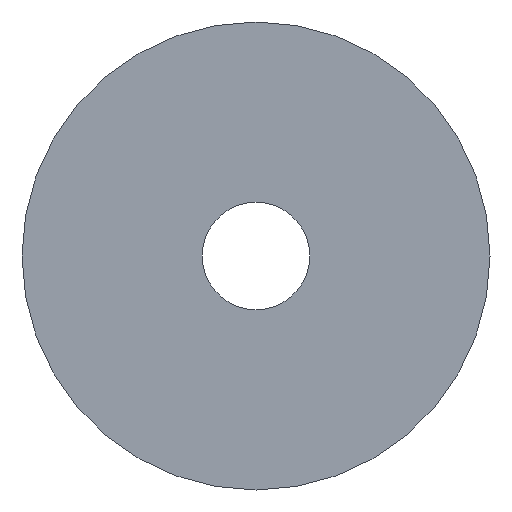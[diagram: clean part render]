
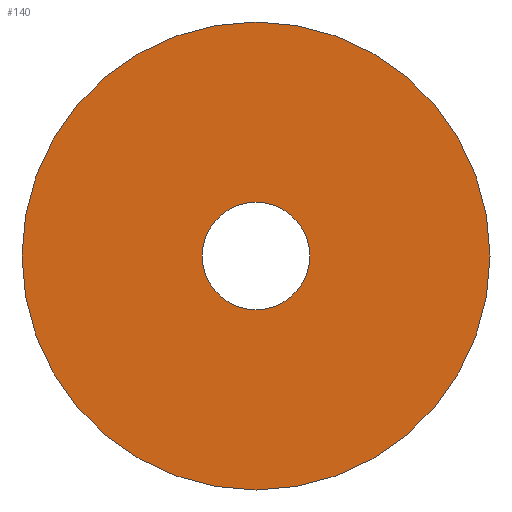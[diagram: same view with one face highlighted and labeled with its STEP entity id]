
A CAD part, left-side view. The second image highlights one B-rep face of the part: STEP entity #140.
In plain terms, the highlighted planar face has unit normal (-1, 0, 0).
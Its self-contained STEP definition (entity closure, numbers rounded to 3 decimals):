
#31 = CYLINDRICAL_SURFACE('',#32,37.);
#32 = AXIS2_PLACEMENT_3D('',#33,#34,#35);
#33 = CARTESIAN_POINT('',(862.,50.,1100.));
#34 = DIRECTION('',(1.,0.,0.));
#35 = DIRECTION('',(-0.,0.,1.));
#56 = VERTEX_POINT('',#57);
#57 = CARTESIAN_POINT('',(862.,50.,1137.));
#78 = EDGE_CURVE('',#56,#56,#79,.T.);
#79 = SURFACE_CURVE('',#80,(#85,#92),.PCURVE_S1.);
#80 = CIRCLE('',#81,37.);
#81 = AXIS2_PLACEMENT_3D('',#82,#83,#84);
#82 = CARTESIAN_POINT('',(862.,50.,1100.));
#83 = DIRECTION('',(1.,0.,0.));
#84 = DIRECTION('',(-0.,0.,1.));
#85 = PCURVE('',#31,#86);
#86 = DEFINITIONAL_REPRESENTATION('',(#87),#91);
#87 = LINE('',#88,#89);
#88 = CARTESIAN_POINT('',(0.,0.));
#89 = VECTOR('',#90,1.);
#90 = DIRECTION('',(1.,0.));
#91 = ( GEOMETRIC_REPRESENTATION_CONTEXT(2) 
PARAMETRIC_REPRESENTATION_CONTEXT() REPRESENTATION_CONTEXT('2D SPACE',''
  ) );
#92 = PCURVE('',#93,#98);
#93 = PLANE('',#94);
#94 = AXIS2_PLACEMENT_3D('',#95,#96,#97);
#95 = CARTESIAN_POINT('',(862.,50.,1100.));
#96 = DIRECTION('',(1.,0.,0.));
#97 = DIRECTION('',(-0.,0.,1.));
#98 = DEFINITIONAL_REPRESENTATION('',(#99),#103);
#99 = CIRCLE('',#100,37.);
#100 = AXIS2_PLACEMENT_2D('',#101,#102);
#101 = CARTESIAN_POINT('',(0.,0.));
#102 = DIRECTION('',(1.,0.));
#103 = ( GEOMETRIC_REPRESENTATION_CONTEXT(2) 
PARAMETRIC_REPRESENTATION_CONTEXT() REPRESENTATION_CONTEXT('2D SPACE',''
  ) );
#129 = CYLINDRICAL_SURFACE('',#130,8.5);
#130 = AXIS2_PLACEMENT_3D('',#131,#132,#133);
#131 = CARTESIAN_POINT('',(861.,50.,1100.));
#132 = DIRECTION('',(1.,0.,0.));
#133 = DIRECTION('',(-0.,0.,1.));
#140 = ADVANCED_FACE('',(#141,#144),#93,.F.);
#141 = FACE_BOUND('',#142,.F.);
#142 = EDGE_LOOP('',(#143));
#143 = ORIENTED_EDGE('',*,*,#78,.T.);
#144 = FACE_BOUND('',#145,.F.);
#145 = EDGE_LOOP('',(#146));
#146 = ORIENTED_EDGE('',*,*,#147,.F.);
#147 = EDGE_CURVE('',#148,#148,#150,.T.);
#148 = VERTEX_POINT('',#149);
#149 = CARTESIAN_POINT('',(862.,50.,1108.5));
#150 = SURFACE_CURVE('',#151,(#156,#163),.PCURVE_S1.);
#151 = CIRCLE('',#152,8.5);
#152 = AXIS2_PLACEMENT_3D('',#153,#154,#155);
#153 = CARTESIAN_POINT('',(862.,50.,1100.));
#154 = DIRECTION('',(1.,0.,0.));
#155 = DIRECTION('',(-0.,0.,1.));
#156 = PCURVE('',#93,#157);
#157 = DEFINITIONAL_REPRESENTATION('',(#158),#162);
#158 = CIRCLE('',#159,8.5);
#159 = AXIS2_PLACEMENT_2D('',#160,#161);
#160 = CARTESIAN_POINT('',(0.,0.));
#161 = DIRECTION('',(1.,0.));
#162 = ( GEOMETRIC_REPRESENTATION_CONTEXT(2) 
PARAMETRIC_REPRESENTATION_CONTEXT() REPRESENTATION_CONTEXT('2D SPACE',''
  ) );
#163 = PCURVE('',#129,#164);
#164 = DEFINITIONAL_REPRESENTATION('',(#165),#169);
#165 = LINE('',#166,#167);
#166 = CARTESIAN_POINT('',(0.,1.));
#167 = VECTOR('',#168,1.);
#168 = DIRECTION('',(1.,0.));
#169 = ( GEOMETRIC_REPRESENTATION_CONTEXT(2) 
PARAMETRIC_REPRESENTATION_CONTEXT() REPRESENTATION_CONTEXT('2D SPACE',''
  ) );
